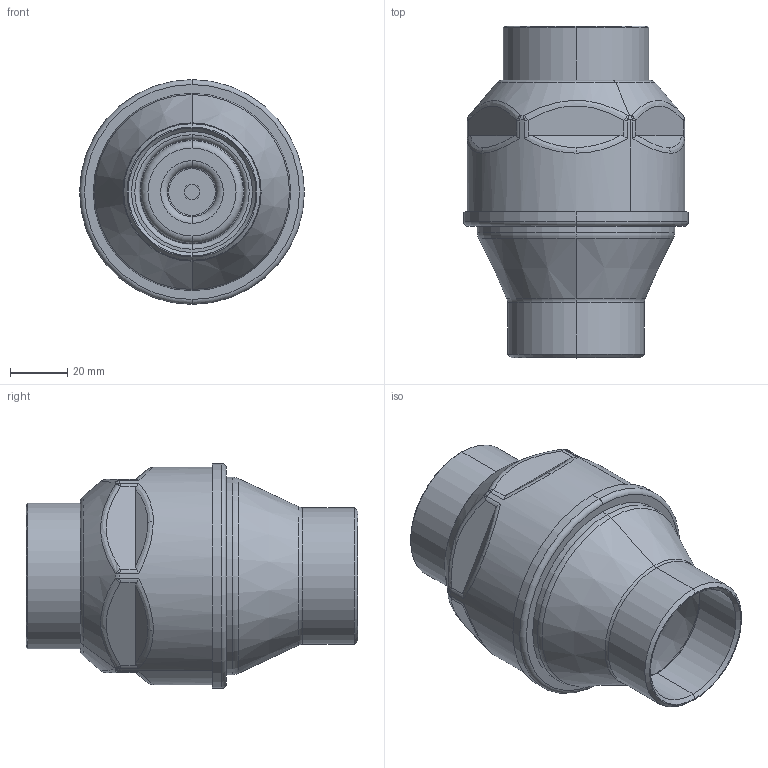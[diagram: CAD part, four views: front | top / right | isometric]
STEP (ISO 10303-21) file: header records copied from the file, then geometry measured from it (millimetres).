
FILE_DESCRIPTION (( 'STEP AP203' ), '1' );
FILE_NAME ('06F0701 cod. 900027 MF G1 1_2.STEP', '2018-10-03T14:46:51', ( '' ), ( '' ), 'SwSTEP 2.0', 'SolidWorks 2016', '' );
FILE_SCHEMA (( 'CONFIG_CONTROL_DESIGN' ));
Length unit declared in the file: millimetre
Products named in the file (1): 06F0701 cod. 900027 MF G1 1_2
Bounding box: 78.6 x 116 x 78.6 mm (x, y, z)
Volume: 62612.4 mm3; surface area: 77541.9 mm2
Topology: 9 solids, 9 shells, 387 faces, 931 edges, 554 vertices
Faces by surface type: cylinder 104, torus 87, bspline 86, plane 82, cone 28
Entity records: 17923 total; most frequent: CARTESIAN_POINT 9539, ORIENTED_EDGE 1814, DIRECTION 1676, EDGE_CURVE 907, AXIS2_PLACEMENT_3D 721, VERTEX_POINT 554, CIRCLE 419, EDGE_LOOP 417
